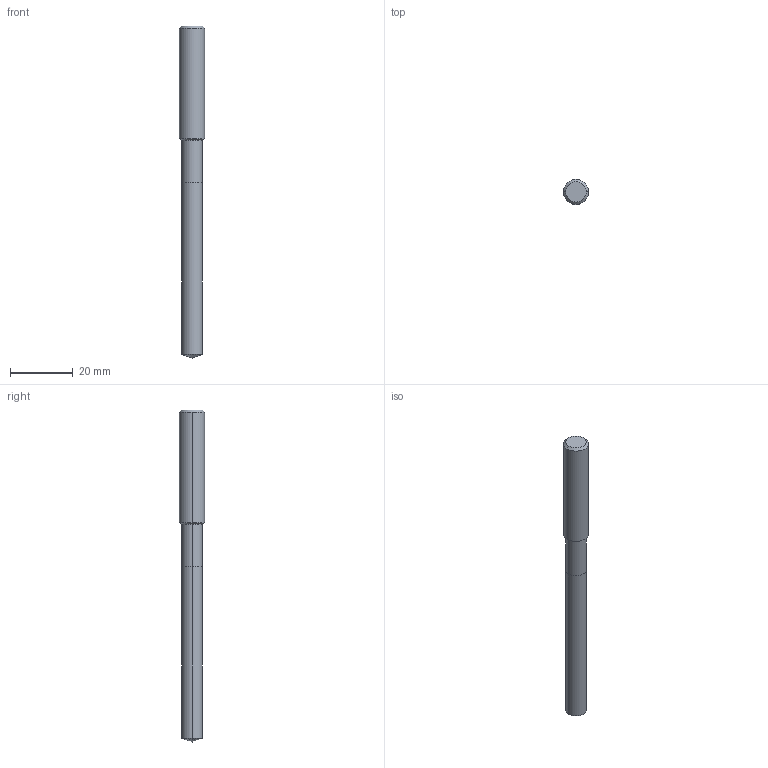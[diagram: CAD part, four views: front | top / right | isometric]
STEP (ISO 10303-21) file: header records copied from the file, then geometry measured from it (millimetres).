
FILE_DESCRIPTION(('STEP AP214'),'1');
FILE_NAME('cctmp_56DCDE9C-049D-4A81-96D9-B1E4A39A6822_2020_11_02_13_40_34_0142..stp','2020-11-02T12:40:34',('Meusburger Georg GmbH & Co KG'),('CADClick - www.CADClick.com'),'Spatial InterOp 3D',' ','unknown authorization');
FILE_SCHEMA(('AUTOMOTIVE_DESIGN { 1 0 10303 214 1 1 1 1 }'));
Length unit declared in the file: millimetre
Products named in the file (1): WZB10223_6.5
Bounding box: 8 x 8 x 106 mm (x, y, z)
Volume: 4101.2 mm3; surface area: 2393.4 mm2
Topology: 1 solids, 1 shells, 14 faces, 28 edges, 15 vertices
Faces by surface type: cylinder 6, cone 6, plane 2
Entity records: 484 total; most frequent: DIRECTION 70, CARTESIAN_POINT 56, ORIENTED_EDGE 52, AXIS2_PLACEMENT_3D 29, EDGE_CURVE 26, STYLED_ITEM 15, PRESENTATION_STYLE_ASSIGNMENT 15, SURFACE_STYLE_USAGE 15
